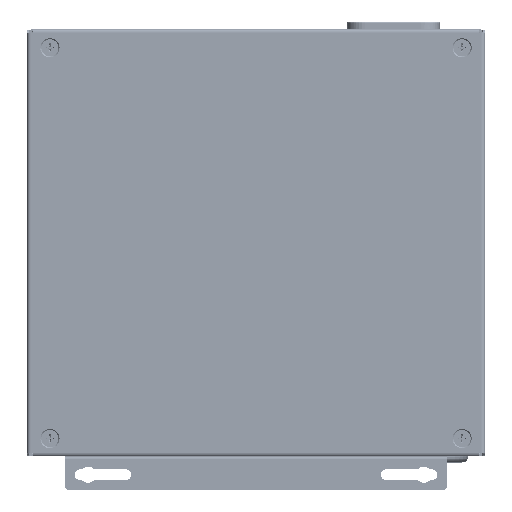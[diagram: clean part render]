
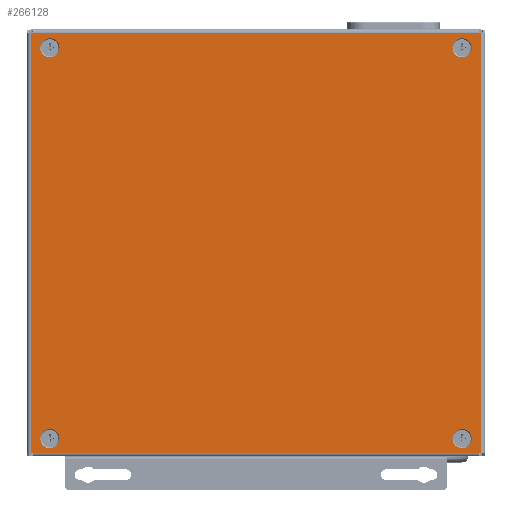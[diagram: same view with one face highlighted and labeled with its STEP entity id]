
A CAD part, front view. The second image highlights one B-rep face of the part: STEP entity #266128.
In plain terms, the highlighted planar face has unit normal (0, -1, 0).
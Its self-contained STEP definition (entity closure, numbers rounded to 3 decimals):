
#2419=FACE_BOUND('',#34606,.T.);
#2420=FACE_BOUND('',#34607,.T.);
#2421=FACE_BOUND('',#34608,.T.);
#2422=FACE_BOUND('',#34609,.T.);
#8042=PLANE('',#289550);
#19593=FACE_OUTER_BOUND('',#34605,.T.);
#34605=EDGE_LOOP('',(#228572,#228573,#228574,#228575,#228576,#228577,#228578,
#228579));
#34606=EDGE_LOOP('',(#228580));
#34607=EDGE_LOOP('',(#228581));
#34608=EDGE_LOOP('',(#228582));
#34609=EDGE_LOOP('',(#228583));
#58244=LINE('',#434052,#84414);
#58247=LINE('',#434060,#84417);
#58250=LINE('',#434072,#84420);
#58307=LINE('',#434388,#84477);
#58308=LINE('',#434392,#84478);
#58309=LINE('',#434394,#84479);
#58310=LINE('',#434396,#84480);
#58311=LINE('',#434397,#84481);
#84414=VECTOR('',#354652,0.8);
#84417=VECTOR('',#354659,146.);
#84420=VECTOR('',#354670,0.8);
#84477=VECTOR('',#354833,138.6);
#84478=VECTOR('',#354838,138.6);
#84479=VECTOR('',#354839,0.8);
#84480=VECTOR('',#354840,146.);
#84481=VECTOR('',#354841,0.8);
#100971=CIRCLE('',#289463,3.15);
#100973=CIRCLE('',#289466,3.15);
#100975=CIRCLE('',#289469,3.15);
#100977=CIRCLE('',#289472,3.15);
#123785=VERTEX_POINT('',#433990);
#123787=VERTEX_POINT('',#433996);
#123789=VERTEX_POINT('',#434002);
#123791=VERTEX_POINT('',#434008);
#123797=VERTEX_POINT('',#434049);
#123798=VERTEX_POINT('',#434051);
#123801=VERTEX_POINT('',#434059);
#123806=VERTEX_POINT('',#434070);
#123850=VERTEX_POINT('',#434387);
#123851=VERTEX_POINT('',#434391);
#123852=VERTEX_POINT('',#434393);
#123853=VERTEX_POINT('',#434395);
#159780=EDGE_CURVE('',#123785,#123785,#100971,.T.);
#159783=EDGE_CURVE('',#123787,#123787,#100973,.T.);
#159786=EDGE_CURVE('',#123789,#123789,#100975,.T.);
#159789=EDGE_CURVE('',#123791,#123791,#100977,.T.);
#159810=EDGE_CURVE('',#123798,#123797,#58244,.T.);
#159814=EDGE_CURVE('',#123801,#123797,#58247,.T.);
#159820=EDGE_CURVE('',#123801,#123806,#58250,.T.);
#159903=EDGE_CURVE('',#123798,#123850,#58307,.T.);
#159905=EDGE_CURVE('',#123806,#123851,#58308,.T.);
#159906=EDGE_CURVE('',#123851,#123852,#58309,.T.);
#159907=EDGE_CURVE('',#123853,#123852,#58310,.T.);
#159908=EDGE_CURVE('',#123853,#123850,#58311,.T.);
#228572=ORIENTED_EDGE('',*,*,#159905,.T.);
#228573=ORIENTED_EDGE('',*,*,#159906,.T.);
#228574=ORIENTED_EDGE('',*,*,#159907,.F.);
#228575=ORIENTED_EDGE('',*,*,#159908,.T.);
#228576=ORIENTED_EDGE('',*,*,#159903,.F.);
#228577=ORIENTED_EDGE('',*,*,#159810,.T.);
#228578=ORIENTED_EDGE('',*,*,#159814,.F.);
#228579=ORIENTED_EDGE('',*,*,#159820,.T.);
#228580=ORIENTED_EDGE('',*,*,#159780,.T.);
#228581=ORIENTED_EDGE('',*,*,#159783,.T.);
#228582=ORIENTED_EDGE('',*,*,#159786,.T.);
#228583=ORIENTED_EDGE('',*,*,#159789,.T.);
#266128=ADVANCED_FACE('',(#19593,#2419,#2420,#2421,#2422),#8042,.T.);
#289463=AXIS2_PLACEMENT_3D('',#433991,#354577,#354578);
#289466=AXIS2_PLACEMENT_3D('',#433997,#354584,#354585);
#289469=AXIS2_PLACEMENT_3D('',#434003,#354591,#354592);
#289472=AXIS2_PLACEMENT_3D('',#434009,#354598,#354599);
#289550=AXIS2_PLACEMENT_3D('',#434390,#354836,#354837);
#354577=DIRECTION('center_axis',(0.,1.,0.));
#354578=DIRECTION('ref_axis',(1.,0.,0.));
#354584=DIRECTION('center_axis',(0.,1.,0.));
#354585=DIRECTION('ref_axis',(1.,0.,0.));
#354591=DIRECTION('center_axis',(0.,1.,0.));
#354592=DIRECTION('ref_axis',(1.,0.,0.));
#354598=DIRECTION('center_axis',(0.,1.,0.));
#354599=DIRECTION('ref_axis',(1.,0.,0.));
#354652=DIRECTION('',(1.,0.,0.));
#354659=DIRECTION('',(-1.,0.,0.));
#354670=DIRECTION('',(1.,0.,0.));
#354833=DIRECTION('',(0.,0.,1.));
#354836=DIRECTION('center_axis',(0.,-1.,0.));
#354837=DIRECTION('ref_axis',(0.,0.,-1.));
#354838=DIRECTION('',(0.,0.,1.));
#354839=DIRECTION('',(-1.,0.,0.));
#354840=DIRECTION('',(1.,0.,0.));
#354841=DIRECTION('',(-1.,0.,0.));
#433990=CARTESIAN_POINT('',(-70.65,0.,63.35));
#433991=CARTESIAN_POINT('Origin',(-67.5,0.,63.35));
#433996=CARTESIAN_POINT('',(-70.65,0.,-64.65));
#433997=CARTESIAN_POINT('Origin',(-67.5,0.,-64.65));
#434002=CARTESIAN_POINT('',(64.35,0.,-64.65));
#434003=CARTESIAN_POINT('Origin',(67.5,0.,-64.65));
#434008=CARTESIAN_POINT('',(64.35,0.,63.35));
#434009=CARTESIAN_POINT('Origin',(67.5,0.,63.35));
#434049=CARTESIAN_POINT('',(-73.,0.,-69.3));
#434051=CARTESIAN_POINT('',(-73.8,0.,-69.3));
#434052=CARTESIAN_POINT('',(-73.8,0.,-69.3));
#434059=CARTESIAN_POINT('',(73.,0.,-69.3));
#434060=CARTESIAN_POINT('',(73.,0.,-69.3));
#434070=CARTESIAN_POINT('',(73.8,0.,-69.3));
#434072=CARTESIAN_POINT('',(-73.8,0.,-69.3));
#434387=CARTESIAN_POINT('',(-73.8,0.,68.3));
#434388=CARTESIAN_POINT('',(-73.8,0.,-70.3));
#434390=CARTESIAN_POINT('Origin',(-73.8,0.,-1.));
#434391=CARTESIAN_POINT('',(73.8,0.,68.3));
#434392=CARTESIAN_POINT('',(73.8,0.,-70.3));
#434393=CARTESIAN_POINT('',(73.,0.,68.3));
#434394=CARTESIAN_POINT('',(73.8,0.,68.3));
#434395=CARTESIAN_POINT('',(-73.,0.,68.3));
#434396=CARTESIAN_POINT('',(-73.,0.,68.3));
#434397=CARTESIAN_POINT('',(-73.,0.,68.3));
